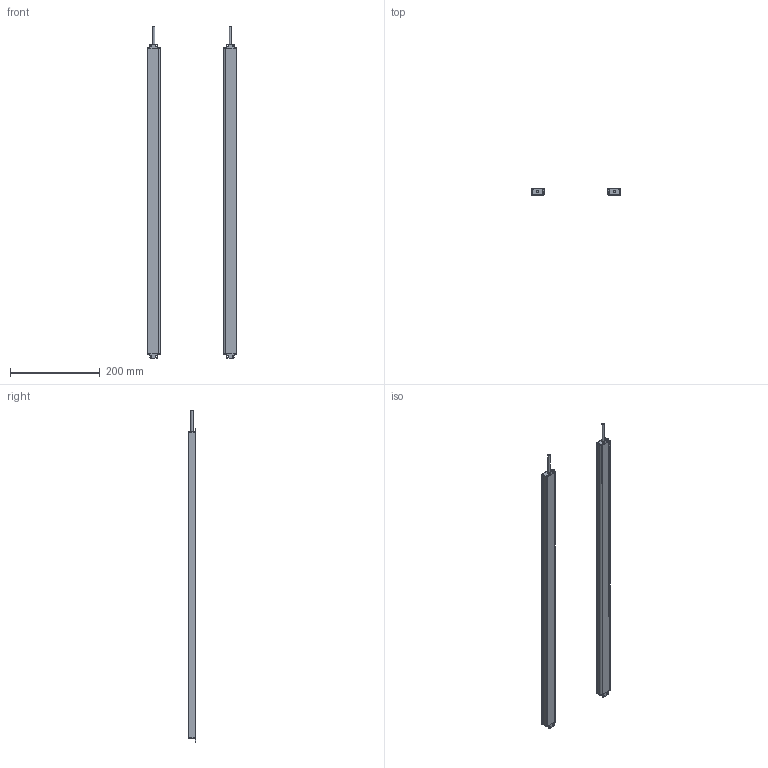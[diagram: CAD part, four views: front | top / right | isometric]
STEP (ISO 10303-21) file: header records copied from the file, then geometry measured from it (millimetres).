
FILE_DESCRIPTION(/* description */ (''),/* implementation_level */ '2;1');
FILE_NAME(/* name */ '3420（16X30ZW).stp',/* time_stamp */ '2020-07-14T19:17:46+08:00',/* author */ (''),/* organization */ (''),/* preprocessor_version */ 'ST-DEVELOPER v16',/* originating_system */ 'SIEMENS PLM Software NX 10.0',/* authorisation */ '');
FILE_SCHEMA (('AP203_CONFIGURATION_CONTROLLED_3D_DESIGN_OF_MECHANICAL_PARTS_AND_ASSEMBLIES_MIM_LF { 1 0 10303 403 2 1 2}'));
Length unit declared in the file: millimetre
Products named in the file (1): Admi58A03253m7i6
Bounding box: 200 x 16 x 741.5 mm (x, y, z)
Volume: 196609.6 mm3; surface area: 290317.5 mm2
Topology: 10 solids, 10 shells, 296 faces, 830 edges, 554 vertices
Faces by surface type: plane 160, cylinder 136
Full cylindrical faces by diameter (mm): 5 x2
Entity records: 9760 total; most frequent: DIRECTION 1692, CARTESIAN_POINT 1675, ORIENTED_EDGE 1652, EDGE_CURVE 826, AXIS2_PLACEMENT_3D 569, LINE 554, VECTOR 554, VERTEX_POINT 552
